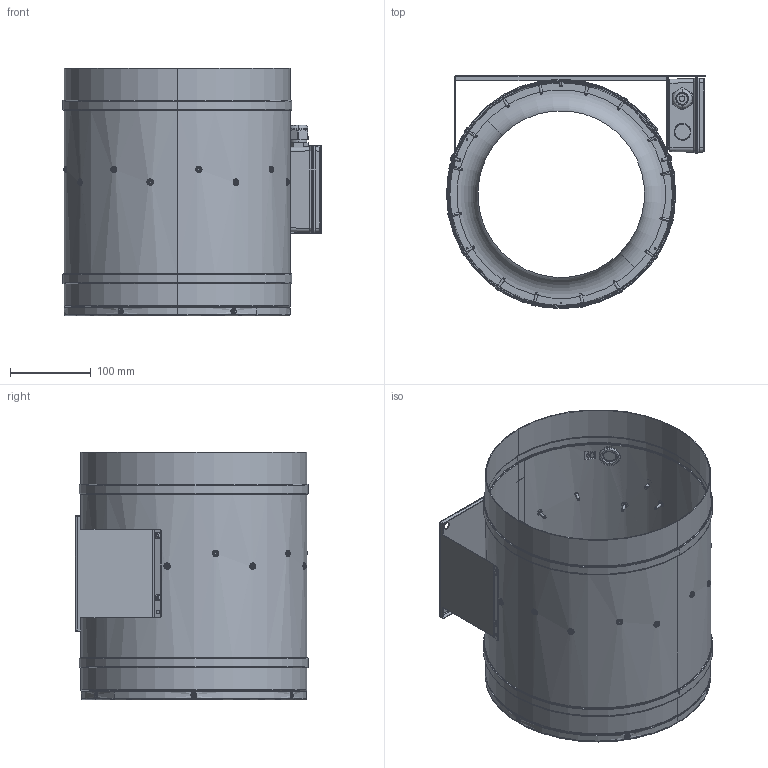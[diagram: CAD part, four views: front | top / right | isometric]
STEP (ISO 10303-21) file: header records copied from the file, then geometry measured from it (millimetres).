
FILE_DESCRIPTION (( 'STEP AP203' ), '1' );
FILE_NAME ('115334-03_EL280E202.STEP', '2013-11-18T08:38:27', ( '' ), ( '' ), 'SwSTEP 2.0', 'SolidWorks 2012', '' );
FILE_SCHEMA (( 'CONFIG_CONTROL_DESIGN' ));
Length unit declared in the file: millimetre
Products named in the file (1): 115334-03_EL280E202
Bounding box: 321.6 x 289.5 x 307.6 mm (x, y, z)
Surface area: 784732.4 mm2 (no closed solid volume)
Topology: 0 solids, 76 shells, 699 faces, 2276 edges, 1614 vertices
Faces by surface type: cylinder 293, plane 182, cone 123, torus 74, bspline 27
Entity records: 31366 total; most frequent: CARTESIAN_POINT 11613, DIRECTION 4337, ORIENTED_EDGE 3476, EDGE_CURVE 2276, AXIS2_PLACEMENT_3D 1809, VERTEX_POINT 1614, CIRCLE 1136, EDGE_LOOP 849
